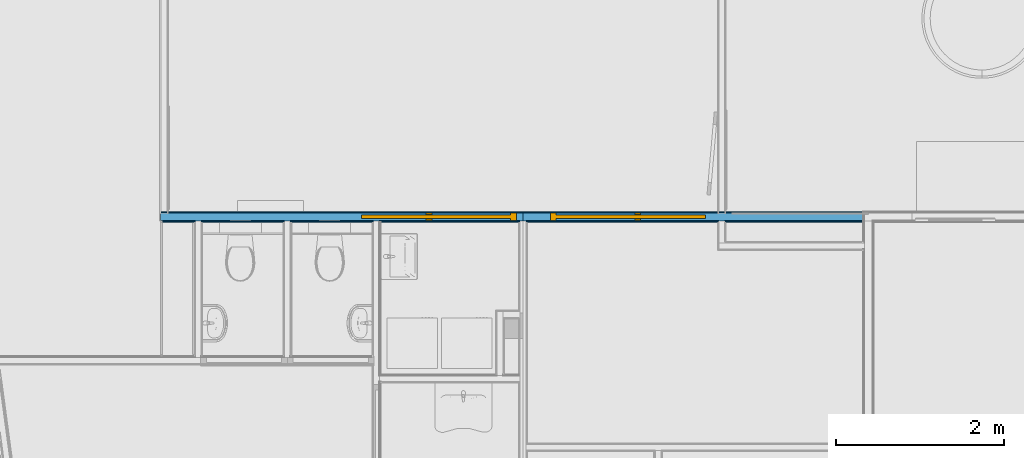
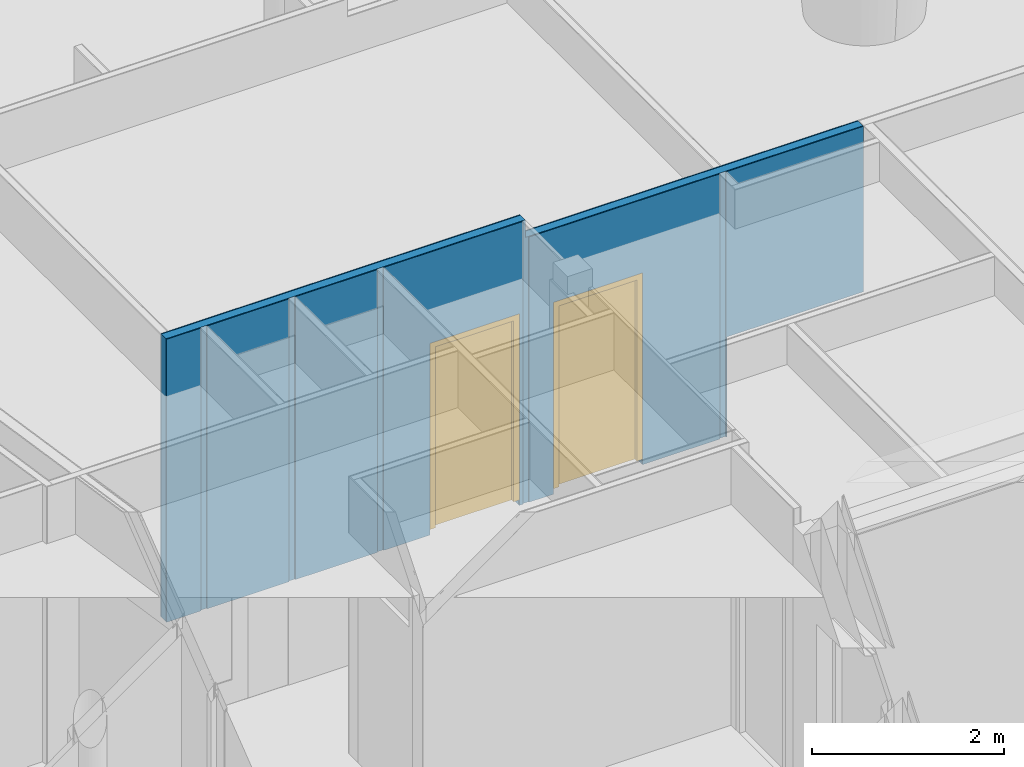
# One storey, part 45 of 167: 3 building element parts, 2 doors, 3 openings, 1 element without a shape of its own.
"""IFC2X3 building model written with IfcOpenShell, lengths in millimetres."""

from ifc_helpers import new_model, entity, si_unit, converted_unit, derived_unit, money_unit, direction, frame, origin_with_axes, place, context, subcontext, project, spatial, faceted_brep, source, transform, mapped, material, type_object, type_shapes, element, fill, aggregate, save


model = new_model("IFC2X3")

# Units and contexts
model_context = context("Model", 3, precision=0.01, world=origin_with_axes(), true_north=direction((0.0, 1.0)))
plan_context = context("Plan", 3, precision=0.01, world=origin_with_axes(), true_north=direction((0.0, 1.0)))
body_context = subcontext(model_context, "Body", "Model", "MODEL_VIEW")
ifc_project = project(units=[si_unit("LENGTHUNIT", "METRE", prefix="MILLI"), si_unit("AREAUNIT", "SQUARE_METRE"), si_unit("VOLUMEUNIT", "CUBIC_METRE"), converted_unit("PLANEANGLEUNIT", "DEGREE", entity("IfcPlaneAngleMeasure", 0.0174532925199), si_unit("PLANEANGLEUNIT", "RADIAN"), dimensions=[0, 0, 0, 0, 0, 0, 0]), si_unit("SOLIDANGLEUNIT", "STERADIAN"), money_unit("EUR"), converted_unit("TIMEUNIT", "Year", entity("IfcTimeMeasure", 31556926.0), si_unit("TIMEUNIT", "SECOND"), dimensions=[0, 0, 1, 0, 0, 0, 0]), si_unit("MASSUNIT", "GRAM", prefix="KILO"), si_unit("THERMODYNAMICTEMPERATUREUNIT", "DEGREE_CELSIUS"), si_unit("LUMINOUSINTENSITYUNIT", "LUMEN"), si_unit("ENERGYUNIT", "JOULE", prefix="MEGA"), derived_unit("THERMALCONDUCTANCEUNIT", [(si_unit("POWERUNIT", "WATT"), 1), (si_unit("LENGTHUNIT", "METRE"), -1), (si_unit("THERMODYNAMICTEMPERATUREUNIT", "KELVIN"), -1)]), derived_unit("SPECIFICHEATCAPACITYUNIT", [(si_unit("ENERGYUNIT", "JOULE"), 1), (si_unit("MASSUNIT", "GRAM", prefix="KILO"), -1), (si_unit("THERMODYNAMICTEMPERATUREUNIT", "KELVIN"), -1)]), derived_unit("MASSDENSITYUNIT", [(si_unit("MASSUNIT", "GRAM", prefix="KILO"), 1), (si_unit("VOLUMEUNIT", "CUBIC_METRE"), -1)])], contexts=[model_context, plan_context])

# Site, building, storey
site_placement = place(None, origin_with_axes())
site = spatial("IfcSite", under=ifc_project, at=site_placement, Name="Site", CompositionType="ELEMENT")
building_placement = place(site_placement, origin_with_axes())
building = spatial("IfcBuilding", under=site, at=building_placement, Name="Naam gebouw", CompositionType="ELEMENT")
storey_placement = place(building_placement, origin_with_axes())
storey = spatial("IfcBuildingStorey", under=building, at=storey_placement, Name="Begane grond", CompositionType="ELEMENT", Elevation=0.0)

# Door
door_style = type_object("IfcDoorStyle", Name="DS1 in wand 24", ConstructionType="NOTDEFINED", OperationType="USERDEFINED", ParameterTakesPrecedence=False, Sizeable=False)
shared_shape_1 = source(origin_with_axes(), body_context, "Body", "Brep", [
    faceted_brep([(537.5, 0.0, 0.0), (537.5, -125.0, 0.0), (470.5, -125.0, 0.0), (470.5, 0.0, 0.0), (537.5, 0.0, 2303.0), (537.5, -125.0, 2303.0), (470.5, -125.0, 2303.0), (470.5, 0.0, 2303.0)], [[[0, 1, 2, 3]], [[4, 5, 1, 0]], [[1, 5, 6, 2]], [[3, 2, 6, 7]], [[0, 3, 7, 4]], [[7, 6, 5, 4]]]),
    faceted_brep([(-470.5, -37.5, 2303.0), (-470.5, 0.0, 2303.0), (-537.5, 0.0, 2303.0), (-537.5, -37.5, 2303.0), (-470.5, -37.5, 0.0), (-470.5, 0.0, 0.0), (-537.5, 0.0, 0.0), (-537.5, -37.5, 0.0)], [[[0, 1, 2, 3]], [[4, 5, 1, 0]], [[5, 6, 2, 1]], [[3, 2, 6, 7]], [[7, 4, 0, 3]], [[7, 6, 5, 4]]]),
    faceted_brep([(-537.5, -87.5, 0.0), (-537.5, -125.0, 0.0), (-537.5, -125.0, 2303.0), (-537.5, -87.5, 2303.0), (-470.5, -87.5, 0.0), (-470.5, -125.0, 0.0), (-470.5, -125.0, 2303.0), (-470.5, -87.5, 2303.0)], [[[0, 1, 2, 3]], [[4, 5, 1, 0]], [[2, 1, 5, 6]], [[3, 2, 6, 7]], [[7, 4, 0, 3]], [[7, 6, 5, 4]]]),
    faceted_brep([(537.5, 0.0, 2370.0), (537.5, -125.0, 2370.0), (537.5, -125.0, 2303.0), (537.5, 0.0, 2303.0), (-537.5, 0.0, 2370.0), (-537.5, -125.0, 2370.0), (-537.5, -125.0, 2303.0), (-470.5, -125.0, 2303.0), (470.5, -125.0, 2303.0), (470.5, 0.0, 2303.0), (-470.5, 0.0, 2303.0), (-537.5, 0.0, 2303.0)], [[[0, 1, 2, 3]], [[4, 5, 1, 0]], [[1, 5, 6, 7, 8, 2]], [[3, 2, 8, 9]], [[0, 3, 9, 10, 11, 4]], [[11, 6, 5, 4]], [[10, 7, 6, 11]], [[9, 8, 7, 10]]]),
    faceted_brep([(-1310.5, -42.5, 0.0), (470.5, -42.5, 0.0), (470.5, -82.5, 0.0), (-1310.5, -82.5, 0.0), (-1310.5, -42.5, 2303.0), (470.5, -42.5, 2303.0), (470.5, -82.5, 2303.0), (-1310.5, -82.5, 2303.0)], [[[0, 1, 2, 3]], [[0, 4, 5, 1]], [[1, 5, 6, 2]], [[3, 2, 6, 7]], [[4, 0, 3, 7]], [[5, 4, 7, 6]]]),
])
wall_placement = place(storey_placement, frame((32862.7814665, 37300.0, -100.0), z_axis=(0.0, 0.0, 1.0), x_axis=(-1.0, 0.0, 0.0)))
opening_3_placement = place(wall_placement, frame((4679.78146645, 0.0, 100.0), z_axis=(0.0, 0.0, 1.0), x_axis=(1.0, 0.0, 0.0)))
door_1_placement = place(opening_3_placement, frame((537.5, 0.0, 0.0), z_axis=(0.0, 0.0, 1.0), x_axis=(-1.0, 0.0, 0.0)))
door_1 = element("IfcDoor", 1, at=door_1_placement, inside=storey, type_object=door_style, Name="32_Deur_Si-05", ObjectType="DOOR", OverallHeight=2370.0, OverallWidth=1075.0, context=body_context, shape_type="MappedRepresentation", body=[
    mapped(shared_shape_1, transform((537.5, 62.5, 0.0))),
])

shared_shape_2 = source(origin_with_axes(), body_context, "Body", "Brep", [
    faceted_brep([(-537.5, 0.0, 0.0), (-470.5, 0.0, 0.0), (-470.5, -125.0, 0.0), (-537.5, -125.0, 0.0), (-537.5, 0.0, 2303.0), (-470.5, 0.0, 2303.0), (-470.5, -125.0, 2303.0), (-537.5, -125.0, 2303.0)], [[[0, 1, 2, 3]], [[0, 4, 5, 1]], [[1, 5, 6, 2]], [[3, 2, 6, 7]], [[4, 0, 3, 7]], [[5, 4, 7, 6]]]),
    faceted_brep([(470.5, -37.5, 2303.0), (537.5, -37.5, 2303.0), (537.5, 0.0, 2303.0), (470.5, 0.0, 2303.0), (537.5, -37.5, 0.0), (470.5, -37.5, 0.0), (537.5, 0.0, 0.0), (470.5, 0.0, 0.0)], [[[0, 1, 2, 3]], [[4, 1, 0, 5]], [[1, 4, 6, 2]], [[7, 3, 2, 6]], [[5, 0, 3, 7]], [[4, 5, 7, 6]]]),
    faceted_brep([(537.5, -87.5, 0.0), (537.5, -87.5, 2303.0), (537.5, -125.0, 2303.0), (537.5, -125.0, 0.0), (470.5, -87.5, 2303.0), (470.5, -87.5, 0.0), (470.5, -125.0, 2303.0), (470.5, -125.0, 0.0)], [[[0, 1, 2, 3]], [[4, 1, 0, 5]], [[1, 4, 6, 2]], [[2, 6, 7, 3]], [[5, 0, 3, 7]], [[4, 5, 7, 6]]]),
    faceted_brep([(-537.5, 0.0, 2370.0), (-537.5, 0.0, 2303.0), (-537.5, -125.0, 2303.0), (-537.5, -125.0, 2370.0), (537.5, 0.0, 2370.0), (537.5, 0.0, 2303.0), (470.5, 0.0, 2303.0), (-470.5, 0.0, 2303.0), (-470.5, -125.0, 2303.0), (470.5, -125.0, 2303.0), (537.5, -125.0, 2303.0), (537.5, -125.0, 2370.0)], [[[0, 1, 2, 3]], [[0, 4, 5, 6, 7, 1]], [[1, 7, 8, 2]], [[3, 2, 8, 9, 10, 11]], [[4, 0, 3, 11]], [[5, 4, 11, 10]], [[6, 5, 10, 9]], [[7, 6, 9, 8]]]),
    faceted_brep([(1310.5, -42.5, 0.0), (1310.5, -82.5, 0.0), (-470.5, -82.5, 0.0), (-470.5, -42.5, 0.0), (1310.5, -42.5, 2303.0), (1310.5, -82.5, 2303.0), (-470.5, -82.5, 2303.0), (-470.5, -42.5, 2303.0)], [[[0, 1, 2, 3]], [[4, 5, 1, 0]], [[1, 5, 6, 2]], [[3, 2, 6, 7]], [[0, 3, 7, 4]], [[7, 6, 5, 4]]]),
])
type_shapes(door_style, [shared_shape_1, shared_shape_2])
opening_2_placement = place(wall_placement, frame((3195.78146645, 0.0, 100.0), z_axis=(0.0, 0.0, 1.0), x_axis=(1.0, 0.0, 0.0)))
door_2_placement = place(opening_2_placement, frame((537.5, 0.0, 0.0), z_axis=(0.0, 0.0, 1.0), x_axis=(-1.0, 0.0, 0.0)))
door_2 = element("IfcDoor", 2, at=door_2_placement, inside=storey, type_object=door_style, Name="32_Deur_Si-05s", ObjectType="DOOR", OverallHeight=2370.0, OverallWidth=1075.0, context=body_context, shape_type="MappedRepresentation", body=[
    mapped(shared_shape_2, transform((537.5, 62.5, 0.0))),
])

# Wall, openings
wall_type = type_object("IfcWallType", Name="_TenW_22_Metalstud 125 enkel gipsvezelplaat  125", PredefinedType="NOTDEFINED")
wall = element("IfcWall", 3, at=wall_placement, inside=storey, type_object=wall_type, Name="22_Wand_Wand-x")
opening_1_placement = place(wall_placement, frame((814.242290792, 0.0, 30.0), z_axis=(0.0, 0.0, 1.0), x_axis=(1.0, 0.0, 0.0)))
element("IfcOpeningElement", 4, at=opening_1_placement, cuts=wall, Name="31_Raam_Merk-x", context=body_context, shape_type="Brep", body=[
    faceted_brep([(-826.742290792, -250.0, 0.0), (-826.742290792, -250.0, 1270.0), (-826.742290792, 125.0, 1270.0), (-826.742290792, 125.0, 0.0), (826.742290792, -250.0, 0.0), (826.742290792, -250.0, 1270.0), (826.742290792, 125.0, 1270.0), (826.742290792, 125.0, 0.0)], [[[0, 1, 2, 3]], [[0, 4, 5, 1]], [[1, 5, 6, 2]], [[3, 2, 6, 7]], [[4, 0, 3, 7]], [[5, 4, 7, 6]]]),
])
opening_2 = element("IfcOpeningElement", 5, at=opening_2_placement, cuts=wall, Name="32_Deur_Si-05s", context=body_context, shape_type="Brep", body=[
    faceted_brep([(-537.5, 125.0, 2370.0), (-537.5, 125.0, 0.0), (-537.5, -250.0, 0.0), (-537.5, -250.0, 2370.0), (537.5, 125.0, 2370.0), (537.5, 125.0, 0.0), (537.5, -250.0, 0.0), (537.5, -250.0, 2370.0)], [[[0, 1, 2, 3]], [[0, 4, 5, 1]], [[1, 5, 6, 2]], [[3, 2, 6, 7]], [[4, 0, 3, 7]], [[5, 4, 7, 6]]]),
    faceted_brep([(-1416.5, -25.0, 0.0), (-1416.5, -25.0, 2303.0), (-1416.5, 25.0, 2303.0), (-1416.5, 25.0, 0.0), (-537.5, -25.0, 0.0), (-537.5, -25.0, 2303.0), (-537.5, 25.0, 2303.0), (-537.5, 25.0, 0.0)], [[[0, 1, 2, 3]], [[0, 4, 5, 1]], [[1, 5, 6, 2]], [[3, 2, 6, 7]], [[4, 0, 3, 7]], [[5, 4, 7, 6]]]),
])

fill(opening_2, door_2)

# Opening
opening_3 = element("IfcOpeningElement", 6, at=opening_3_placement, cuts=wall, Name="32_Deur_Si-05", context=body_context, shape_type="Brep", body=[
    faceted_brep([(537.5, -250.0, 2370.0), (537.5, -250.0, 0.0), (537.5, 125.0, 0.0), (537.5, 125.0, 2370.0), (-537.5, -250.0, 2370.0), (-537.5, -250.0, 0.0), (-537.5, 125.0, 0.0), (-537.5, 125.0, 2370.0)], [[[0, 1, 2, 3]], [[0, 4, 5, 1]], [[1, 5, 6, 2]], [[3, 2, 6, 7]], [[4, 0, 3, 7]], [[5, 4, 7, 6]]]),
    faceted_brep([(1416.5, 25.0, 0.0), (1416.5, 25.0, 2303.0), (1416.5, -25.0, 2303.0), (1416.5, -25.0, 0.0), (537.5, 25.0, 0.0), (537.5, 25.0, 2303.0), (537.5, -25.0, 2303.0), (537.5, -25.0, 0.0)], [[[0, 1, 2, 3]], [[0, 4, 5, 1]], [[1, 5, 6, 2]], [[3, 2, 6, 7]], [[4, 0, 3, 7]], [[5, 4, 7, 6]]]),
])

fill(opening_3, door_1)

# Building element part
ifc_material_1 = material(Name="Gipsplaat watervast")
building_element_part_1_placement = place(wall_placement, origin_with_axes())
building_element_part_1 = element("IfcBuildingElementPart", 7, at=building_element_part_1_placement, material=ifc_material_1, Name="Gipsplaat watervast", context=body_context, shape_type="Brep", body=[
    faceted_brep([(3733.28146645, 50.0, 2470.0), (3733.28146645, 50.0, 100.0), (3733.28146645, 50.0, 30.0), (4025.28146645, 50.0, 30.0), (4025.28146645, 50.0, 3405.0), (1728.48458158, 50.0, 3405.0), (1728.48458158, 50.0, 30.0), (2658.28146645, 50.0, 30.0), (2658.28146645, 50.0, 100.0), (2658.28146645, 50.0, 2470.0), (3733.28146645, 62.5, 2470.0), (3733.28146645, 62.5, 100.0), (3733.28146645, 62.5, 30.0), (4025.28146645, 62.5, 30.0), (4025.28146645, 62.5, 3405.0), (1728.48458158, 62.5, 3405.0), (1728.48458158, 62.5, 30.0), (2658.28146645, 62.5, 30.0), (2658.28146645, 62.5, 100.0), (2658.28146645, 62.5, 2470.0)], [[[0, 1, 2, 3, 4, 5, 6, 7, 8, 9]], [[1, 0, 10, 11]], [[1, 11, 12, 2]], [[12, 13, 3, 2]], [[4, 3, 13, 14]], [[5, 4, 14, 15]], [[15, 16, 6, 5]], [[7, 6, 16, 17]], [[18, 8, 7, 17]], [[9, 8, 18, 19]], [[0, 9, 19, 10]], [[19, 18, 17, 16, 15, 14, 13, 12, 11, 10]]]),
    faceted_brep([(5217.28146645, 50.0, 2470.0), (5217.28146645, 50.0, 100.0), (5217.28146645, 50.0, 30.0), (5775.28145323, 50.0, 30.0), (5775.28145323, 50.0, 3630.0), (4100.28146645, 50.0, 3630.0), (4100.28146645, 50.0, 30.0), (4142.28146645, 50.0, 30.0), (4142.28146645, 50.0, 100.0), (4142.28146645, 50.0, 2470.0), (5217.28146645, 62.5, 2470.0), (5217.28146645, 62.5, 100.0), (5217.28146645, 62.5, 30.0), (5775.28145323, 62.5, 30.0), (5775.28145323, 62.5, 3630.0), (4100.28146645, 62.5, 3630.0), (4100.28146645, 62.5, 30.0), (4142.28146645, 62.5, 30.0), (4142.28146645, 62.5, 100.0), (4142.28146645, 62.5, 2470.0)], [[[0, 1, 2, 3, 4, 5, 6, 7, 8, 9]], [[1, 0, 10, 11]], [[1, 11, 12, 2]], [[12, 13, 3, 2]], [[13, 14, 4, 3]], [[14, 15, 5, 4]], [[6, 5, 15, 16]], [[7, 6, 16, 17]], [[18, 8, 7, 17]], [[9, 8, 18, 19]], [[0, 9, 19, 10]], [[19, 18, 17, 16, 15, 14, 13, 12, 11, 10]]]),
    faceted_brep([(5850.28145323, 62.5, 30.0), (5850.28145323, 50.0, 30.0), (5850.28145323, 50.0, 3630.0), (5850.28145323, 62.5, 3630.0), (6837.78145323, 50.0, 30.0), (6837.78145323, 62.5, 30.0), (6837.78145323, 50.0, 3630.0), (6837.78145323, 62.5, 3630.0)], [[[0, 1, 2, 3]], [[4, 1, 0, 5]], [[1, 4, 6, 2]], [[6, 7, 3, 2]], [[5, 0, 3, 7]], [[4, 5, 7, 6]]]),
    faceted_brep([(6912.78145323, 62.5, 30.0), (6912.78145323, 50.0, 30.0), (6912.78145323, 50.0, 3630.0), (6912.78145323, 62.5, 3630.0), (7900.28144971, 50.0, 30.0), (7900.28144971, 62.5, 30.0), (7900.28144971, 50.0, 3630.0), (7900.28144971, 62.5, 3630.0)], [[[0, 1, 2, 3]], [[4, 1, 0, 5]], [[1, 4, 6, 2]], [[6, 7, 3, 2]], [[5, 0, 3, 7]], [[4, 5, 7, 6]]]),
    faceted_brep([(7975.28144971, 62.5, 30.0), (7975.28144971, 50.0, 30.0), (7975.28144971, 50.0, 3630.0), (7975.28144971, 62.5, 3630.0), (8387.78110901, 50.0, 30.0), (8387.78110901, 62.5, 30.0), (8387.78110901, 50.0, 3630.0), (8387.78110901, 62.5, 3630.0)], [[[0, 1, 2, 3]], [[4, 1, 0, 5]], [[1, 4, 6, 2]], [[2, 6, 7, 3]], [[5, 0, 3, 7]], [[4, 5, 7, 6]]]),
    faceted_brep([(0.0, 62.5, 1300.0), (0.0, 50.0, 1300.0), (0.0, 50.0, 3405.0), (0.0, 62.5, 3405.0), (1640.98458158, 50.0, 1300.0), (1640.98458158, 62.5, 1300.0), (1640.98458158, 50.0, 100.0), (1640.98458158, 50.0, 30.0), (1653.48458158, 50.0, 30.0), (1653.48458158, 50.0, 3405.0), (1653.48458158, 62.5, 3405.0), (1653.48458158, 62.5, 30.0), (1640.98458158, 62.5, 30.0), (1640.98458158, 62.5, 100.0)], [[[0, 1, 2, 3]], [[4, 1, 0, 5]], [[4, 6, 7, 8, 9, 2, 1]], [[2, 9, 10, 3]], [[5, 0, 3, 10, 11, 12, 13]], [[6, 4, 5, 13]], [[6, 13, 12, 7]], [[12, 11, 8, 7]], [[9, 8, 11, 10]]]),
])

ifc_material_2 = material(Name="Isolatie - Steenwol zacht")
building_element_part_2_placement = place(wall_placement, origin_with_axes())
building_element_part_2 = element("IfcBuildingElementPart", 8, at=building_element_part_2_placement, material=ifc_material_2, Name="Isolatie - Steenwol zacht", context=body_context, shape_type="Brep", body=[
    faceted_brep([(5217.28146645, 25.0, 100.0), (5217.28146645, 25.0, 2403.0), (5217.28146645, -25.0, 2403.0), (5217.28146645, -25.0, 100.0), (5217.28146645, -50.0, 100.0), (5217.28146645, -50.0, 2470.0), (5217.28146645, 50.0, 2470.0), (5217.28146645, 50.0, 100.0), (6096.28146645, 25.0, 100.0), (6096.28146645, 25.0, 2403.0), (6096.28146645, -25.0, 2403.0), (6096.28146645, -25.0, 100.0), (5217.28146645, 50.0, 30.0), (5217.28146645, -50.0, 30.0), (4142.28146645, -50.0, 30.0), (4142.28146645, -50.0, 100.0), (4142.28146645, -50.0, 2470.0), (8387.78110901, -50.0, 30.0), (8387.78110901, -50.0, 3630.0), (4062.78146645, -50.0, 3630.0), (4062.78146645, -50.0, 3405.0), (0.0, -50.0, 3405.0), (0.0, -50.0, 1300.0), (1640.98458158, -50.0, 1300.0), (1640.98458158, -50.0, 100.0), (1640.98458158, -50.0, 30.0), (2658.28146645, -50.0, 30.0), (2658.28146645, -50.0, 100.0), (2658.28146645, -50.0, 2470.0), (3733.28146645, -50.0, 2470.0), (3733.28146645, -50.0, 100.0), (3733.28146645, -50.0, 30.0), (4142.28146645, 50.0, 2470.0), (4142.28146645, 50.0, 100.0), (4142.28146645, 50.0, 30.0), (3733.28146645, 50.0, 30.0), (3733.28146645, 50.0, 100.0), (3733.28146645, 50.0, 2470.0), (2658.28146645, 50.0, 2470.0), (2658.28146645, 50.0, 100.0), (2658.28146645, 50.0, 30.0), (1640.98458158, 50.0, 30.0), (1640.98458158, 50.0, 100.0), (1640.98458158, 50.0, 1300.0), (0.0, 50.0, 1300.0), (0.0, 50.0, 3405.0), (4062.78146645, 50.0, 3405.0), (4062.78146645, 50.0, 3630.0), (8387.78110901, 50.0, 3630.0), (8387.78110901, 50.0, 30.0), (2658.28146645, 25.0, 100.0), (2658.28146645, -25.0, 100.0), (2658.28146645, -25.0, 2403.0), (2658.28146645, 25.0, 2403.0), (1779.28146645, 25.0, 100.0), (1779.28146645, -25.0, 100.0), (1779.28146645, -25.0, 2403.0), (1779.28146645, 25.0, 2403.0)], [[[0, 1, 2, 3, 4, 5, 6, 7]], [[1, 0, 8, 9]], [[2, 1, 9, 10]], [[3, 2, 10, 11]], [[3, 0, 7, 12, 13, 4]], [[14, 15, 16, 5, 4, 13, 17, 18, 19, 20, 21, 22, 23, 24, 25, 26, 27, 28, 29, 30, 31]], [[16, 32, 6, 5]], [[12, 7, 6, 32, 33, 34, 35, 36, 37, 38, 39, 40, 41, 42, 43, 44, 45, 46, 47, 48, 49]], [[0, 3, 11, 8]], [[11, 10, 9, 8]], [[12, 49, 17, 13]], [[15, 14, 34, 33]], [[15, 33, 32, 16]], [[49, 48, 18, 17]], [[19, 18, 48, 47]], [[20, 19, 47, 46]], [[21, 20, 46, 45]], [[44, 22, 21, 45]], [[23, 22, 44, 43]], [[24, 23, 43, 42]], [[24, 42, 41, 25]], [[26, 25, 41, 40]], [[50, 51, 27, 26, 40, 39]], [[39, 38, 28, 27, 51, 52, 53, 50]], [[37, 29, 28, 38]], [[36, 30, 29, 37]], [[31, 30, 36, 35]], [[14, 31, 35, 34]], [[54, 55, 51, 50]], [[55, 56, 52, 51]], [[56, 57, 53, 52]], [[57, 54, 50, 53]], [[54, 57, 56, 55]]]),
])

building_element_part_3_placement = place(wall_placement, origin_with_axes())
building_element_part_3 = element("IfcBuildingElementPart", 9, at=building_element_part_3_placement, material=ifc_material_1, Name="Gipsplaat watervast", context=body_context, shape_type="Brep", body=[
    faceted_brep([(5217.28146645, -62.5, 2470.0), (5217.28146645, -62.5, 100.0), (5217.28146645, -62.5, 30.0), (8387.78110901, -62.5, 30.0), (8387.78110901, -62.5, 3630.0), (4062.78146645, -62.5, 3630.0), (4062.78146645, -62.5, 3405.0), (0.0, -62.5, 3405.0), (0.0, -62.5, 1300.0), (1640.98458158, -62.5, 1300.0), (1640.98458158, -62.5, 100.0), (1640.98458158, -62.5, 30.0), (2658.28146645, -62.5, 30.0), (2658.28146645, -62.5, 100.0), (2658.28146645, -62.5, 2470.0), (3733.28146645, -62.5, 2470.0), (3733.28146645, -62.5, 100.0), (3733.28146645, -62.5, 30.0), (4142.28146645, -62.5, 30.0), (4142.28146645, -62.5, 100.0), (4142.28146645, -62.5, 2470.0), (5217.28146645, -50.0, 2470.0), (5217.28146645, -50.0, 100.0), (5217.28146645, -50.0, 30.0), (8387.78110901, -50.0, 30.0), (8387.78110901, -50.0, 3630.0), (4062.78146645, -50.0, 3630.0), (4062.78146645, -50.0, 3405.0), (0.0, -50.0, 3405.0), (0.0, -50.0, 1300.0), (1640.98458158, -50.0, 1300.0), (1640.98458158, -50.0, 100.0), (1640.98458158, -50.0, 30.0), (2658.28146645, -50.0, 30.0), (2658.28146645, -50.0, 100.0), (2658.28146645, -50.0, 2470.0), (3733.28146645, -50.0, 2470.0), (3733.28146645, -50.0, 100.0), (3733.28146645, -50.0, 30.0), (4142.28146645, -50.0, 30.0), (4142.28146645, -50.0, 100.0), (4142.28146645, -50.0, 2470.0)], [[[0, 1, 2, 3, 4, 5, 6, 7, 8, 9, 10, 11, 12, 13, 14, 15, 16, 17, 18, 19, 20]], [[1, 0, 21, 22]], [[1, 22, 23, 2]], [[3, 2, 23, 24]], [[4, 3, 24, 25]], [[25, 26, 5, 4]], [[26, 27, 6, 5]], [[27, 28, 7, 6]], [[7, 28, 29, 8]], [[29, 30, 9, 8]], [[30, 31, 10, 9]], [[32, 11, 10, 31]], [[32, 33, 12, 11]], [[13, 12, 33, 34]], [[13, 34, 35, 14]], [[14, 35, 36, 15]], [[15, 36, 37, 16]], [[37, 38, 17, 16]], [[38, 39, 18, 17]], [[40, 19, 18, 39]], [[20, 19, 40, 41]], [[0, 20, 41, 21]], [[41, 40, 39, 38, 37, 36, 35, 34, 33, 32, 31, 30, 29, 28, 27, 26, 25, 24, 23, 22, 21]]]),
])

aggregate(wall, [building_element_part_1, building_element_part_2, building_element_part_3])

save(model, "model.ifc")
